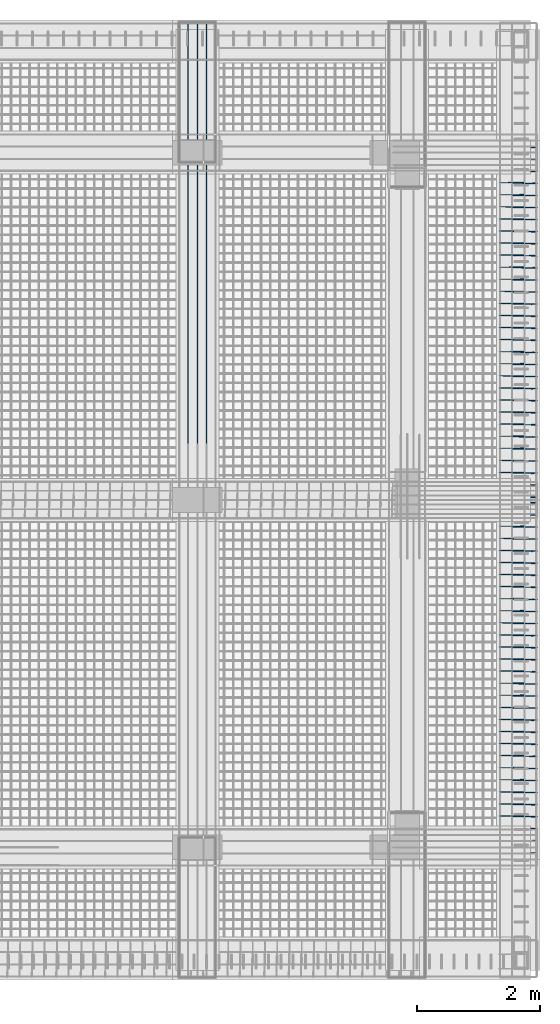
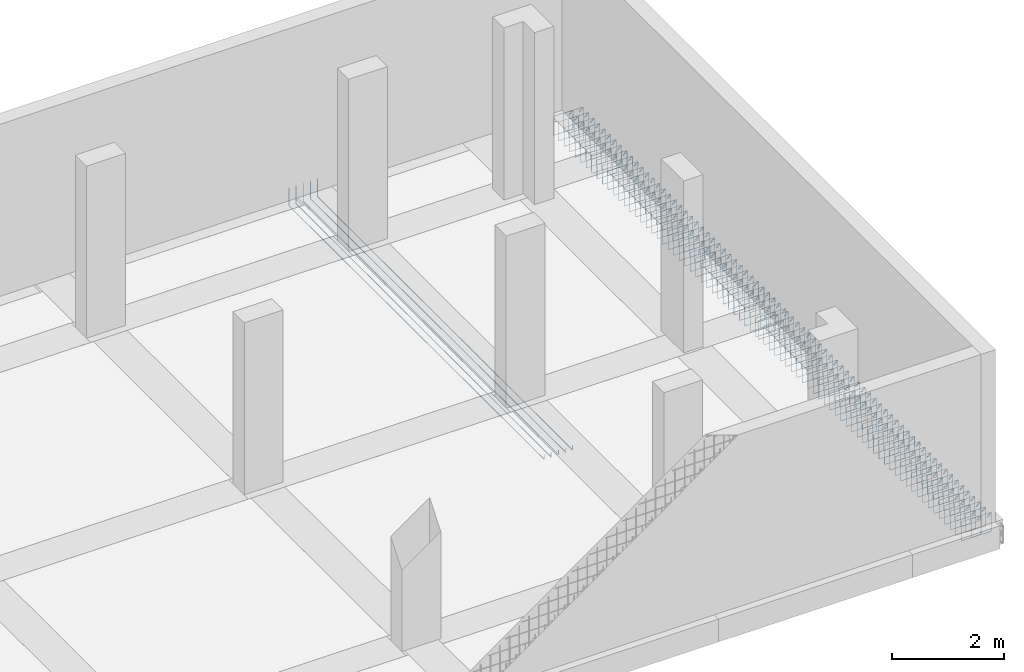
# One storey, part 8 of 9: 2 reinforcing bars.
"""IFC4 building model written with IfcOpenShell, lengths in metres."""

from ifc_helpers import new_model, entity, si_unit, origin_with_axes, place, context, project, spatial, source, transform, mapped, element, save


model = new_model("IFC4")

# Units and contexts
model_context = context("Model", 3, precision=1e-05, world=origin_with_axes())
ifc_project = project(units=[si_unit("LENGTHUNIT", "METRE"), si_unit("AREAUNIT", "SQUARE_METRE"), si_unit("VOLUMEUNIT", "CUBIC_METRE"), si_unit("MASSUNIT", "GRAM", prefix="KILO"), si_unit("TIMEUNIT", "SECOND"), si_unit("PLANEANGLEUNIT", "RADIAN"), si_unit("SOLIDANGLEUNIT", "STERADIAN"), si_unit("THERMODYNAMICTEMPERATUREUNIT", "DEGREE_CELSIUS")], contexts=[model_context])

# Site, building, storey
placement_1 = place(None, origin_with_axes())
site = spatial("IfcSite", under=ifc_project, at=placement_1, Name="Italia", CompositionType="ELEMENT")
building = spatial("IfcBuilding", under=site, at=placement_1, Name="Palazzina", CompositionType="ELEMENT")
storey = spatial("IfcBuildingStorey", under=building, at=placement_1, Name="Storey 0", CompositionType="ELEMENT", Elevation=0.0)

# Reinforcing bars
shared_shape_1 = source(origin_with_axes(), model_context, "Body", "AdvancedSweptSolid", [
    entity("IfcSweptDiskSolid", entity("IfcIndexedPolyCurve", entity("IfcCartesianPointList3D", [[15.242, 4.458, -0.344], [15.242, 4.458, -0.434], [15.242, 4.45876, -0.437827], [15.242, 4.46093, -0.441071], [15.242, 4.46417, -0.443239], [15.242, 4.468, -0.444], [15.242, 4.88382, -0.444], [15.242, 13.56, -0.444], [15.242, 13.5638, -0.443239], [15.242, 13.5671, -0.441071], [15.242, 13.5692, -0.437827], [15.242, 13.57, -0.434], [15.242, 13.57, -0.056]]), [entity("IfcLineIndex", [1, 2]), entity("IfcLineIndex", [2, 3]), entity("IfcLineIndex", [3, 4]), entity("IfcLineIndex", [4, 5]), entity("IfcLineIndex", [5, 6]), entity("IfcLineIndex", [6, 7]), entity("IfcLineIndex", [7, 8]), entity("IfcLineIndex", [8, 9]), entity("IfcLineIndex", [9, 10]), entity("IfcLineIndex", [10, 11]), entity("IfcLineIndex", [11, 12]), entity("IfcLineIndex", [12, 13])], False), 0.008),
])
placement_2 = place(placement_1, origin_with_axes())
reinforcing_bar_1_placement = place(placement_2, origin_with_axes())
element("IfcReinforcingBar", 1, at=reinforcing_bar_1_placement, inside=storey, BarLength=9.59121, CrossSectionArea=0.00020106, NominalDiameter=0.016, context=model_context, shape_type="MappedRepresentation", body=[
    mapped(shared_shape_1, transform((0.0, 0.0, 0.0), x_axis=(1.0, 0.0, 0.0), y_axis=(0.0, 1.0, 0.0), z_axis=(0.0, 0.0, 1.0), scale=1.0)),
    mapped(shared_shape_1, transform((-0.584, 0.0, 0.0), x_axis=(1.0, 0.0, 0.0), y_axis=(0.0, 1.0, 0.0), z_axis=(0.0, 0.0, 1.0), scale=1.0)),
    mapped(shared_shape_1, transform((-0.141999, 0.0, 0.0), x_axis=(1.0, 0.0, 0.0), y_axis=(0.0, 1.0, 0.0), z_axis=(0.0, 0.0, 1.0), scale=1.0)),
    mapped(shared_shape_1, transform((-0.292, 0.0, 0.0), x_axis=(1.0, 0.0, 0.0), y_axis=(0.0, 1.0, 0.0), z_axis=(0.0, 0.0, 1.0), scale=1.0)),
    mapped(shared_shape_1, transform((-0.441999, 0.0, 0.0), x_axis=(1.0, 0.0, 0.0), y_axis=(0.0, 1.0, 0.0), z_axis=(0.0, 0.0, 1.0), scale=1.0)),
])
shared_shape_2 = source(origin_with_axes(), model_context, "Body", "AdvancedSweptSolid", [
    entity("IfcSweptDiskSolid", entity("IfcIndexedPolyCurve", entity("IfcCartesianPointList3D", [[20.3843, -1.45, -0.138211], [20.4521, -1.45058, -0.0704289], [20.455, -1.45063, -0.0633579], [20.455, -1.45068, -0.055], [20.4542, -1.4507, -0.0511732], [20.4521, -1.45073, -0.0479289], [20.4488, -1.45075, -0.0457612], [20.445, -1.45077, -0.045], [20.0583, -1.45312, -0.045], [20.0545, -1.45314, -0.0457612], [20.0513, -1.45317, -0.0479289], [20.0491, -1.45319, -0.0511732], [20.0483, -1.45321, -0.055], [20.0483, -1.45558, -0.445], [20.0491, -1.4556, -0.448827], [20.0513, -1.45563, -0.452071], [20.0545, -1.45565, -0.454239], [20.0583, -1.45568, -0.455], [20.445, -1.45802, -0.455], [20.4488, -1.45805, -0.454239], [20.4521, -1.45807, -0.452071], [20.4542, -1.45809, -0.448827], [20.455, -1.45812, -0.445], [20.455, -1.46048, -0.055], [20.4542, -1.46051, -0.0511732], [20.4521, -1.46053, -0.0479289], [20.4488, -1.46055, -0.0457612], [20.445, -1.46058, -0.045], [20.4366, -1.46063, -0.045], [20.4296, -1.46067, -0.0479289], [20.3618, -1.46126, -0.115711]]), [entity("IfcLineIndex", [1, 2]), entity("IfcLineIndex", [2, 3]), entity("IfcLineIndex", [3, 4]), entity("IfcLineIndex", [4, 5]), entity("IfcLineIndex", [5, 6]), entity("IfcLineIndex", [6, 7]), entity("IfcLineIndex", [7, 8]), entity("IfcLineIndex", [8, 9]), entity("IfcLineIndex", [9, 10]), entity("IfcLineIndex", [10, 11]), entity("IfcLineIndex", [11, 12]), entity("IfcLineIndex", [12, 13]), entity("IfcLineIndex", [13, 14]), entity("IfcLineIndex", [14, 15]), entity("IfcLineIndex", [15, 16]), entity("IfcLineIndex", [16, 17]), entity("IfcLineIndex", [17, 18]), entity("IfcLineIndex", [18, 19]), entity("IfcLineIndex", [19, 20]), entity("IfcLineIndex", [20, 21]), entity("IfcLineIndex", [21, 22]), entity("IfcLineIndex", [22, 23]), entity("IfcLineIndex", [23, 24]), entity("IfcLineIndex", [24, 25]), entity("IfcLineIndex", [25, 26]), entity("IfcLineIndex", [26, 27]), entity("IfcLineIndex", [27, 28]), entity("IfcLineIndex", [28, 29]), entity("IfcLineIndex", [29, 30]), entity("IfcLineIndex", [30, 31])], False), 0.005),
])
reinforcing_bar_2_placement = place(placement_2, origin_with_axes())
element("IfcReinforcingBar", 2, at=reinforcing_bar_2_placement, inside=storey, BarLength=1.85515, CrossSectionArea=7.854e-05, NominalDiameter=0.01, context=model_context, shape_type="MappedRepresentation", body=[
    mapped(shared_shape_2, transform((-7.82013e-05, 12.0251, 7.23749e-05), x_axis=(1.0, 5.45636e-05, 0.0), y_axis=(-5.45463e-05, 1.0, 5.6339e-05), z_axis=(0.0, -5.6339e-05, 1.0), scale=1.0)),
    mapped(shared_shape_2, transform((-7.82013e-05, 11.8294, 7.23749e-05), x_axis=(1.0, 5.45636e-05, 0.0), y_axis=(-5.45463e-05, 1.0, 5.6339e-05), z_axis=(0.0, -5.6339e-05, 1.0), scale=1.0)),
    mapped(shared_shape_2, transform((-7.82013e-05, 12.4164, 7.23749e-05), x_axis=(1.0, 5.45636e-05, 0.0), y_axis=(-5.45463e-05, 1.0, 5.6339e-05), z_axis=(0.0, -5.6339e-05, 1.0), scale=1.0)),
    mapped(shared_shape_2, transform((-7.82013e-05, 12.2208, 7.23749e-05), x_axis=(1.0, 5.45636e-05, 0.0), y_axis=(-5.45463e-05, 1.0, 5.6339e-05), z_axis=(0.0, -5.6339e-05, 1.0), scale=1.0)),
    mapped(shared_shape_2, transform((-7.82013e-05, 11.2424, 7.23749e-05), x_axis=(1.0, 5.45636e-05, 0.0), y_axis=(-5.45463e-05, 1.0, 5.6339e-05), z_axis=(0.0, -5.6339e-05, 1.0), scale=1.0)),
    mapped(shared_shape_2, transform((-7.82013e-05, 11.0467, 7.23749e-05), x_axis=(1.0, 5.45636e-05, 0.0), y_axis=(-5.45463e-05, 1.0, 5.6339e-05), z_axis=(0.0, -5.6339e-05, 1.0), scale=1.0)),
    mapped(shared_shape_2, transform((-7.82013e-05, 11.6337, 7.23749e-05), x_axis=(1.0, 5.45636e-05, 0.0), y_axis=(-5.45463e-05, 1.0, 5.6339e-05), z_axis=(0.0, -5.6339e-05, 1.0), scale=1.0)),
    mapped(shared_shape_2, transform((-7.82013e-05, 11.4381, 7.23749e-05), x_axis=(1.0, 5.45636e-05, 0.0), y_axis=(-5.45463e-05, 1.0, 5.6339e-05), z_axis=(0.0, -5.6339e-05, 1.0), scale=1.0)),
    mapped(shared_shape_2, transform((-7.82013e-05, 13.9819, 7.23749e-05), x_axis=(1.0, 5.45636e-05, 0.0), y_axis=(-5.45463e-05, 1.0, 5.6339e-05), z_axis=(0.0, -5.6339e-05, 1.0), scale=1.0)),
    mapped(shared_shape_2, transform((-7.82013e-05, 13.7862, 7.23749e-05), x_axis=(1.0, 5.45636e-05, 0.0), y_axis=(-5.45463e-05, 1.0, 5.6339e-05), z_axis=(0.0, -5.6339e-05, 1.0), scale=1.0)),
    mapped(shared_shape_2, transform((-7.82013e-05, 12.6121, 7.23749e-05), x_axis=(1.0, 5.45636e-05, 0.0), y_axis=(-5.45463e-05, 1.0, 5.6339e-05), z_axis=(0.0, -5.6339e-05, 1.0), scale=1.0)),
    mapped(shared_shape_2, transform((-7.82013e-05, 14.1775, 7.23749e-05), x_axis=(1.0, 5.45636e-05, 0.0), y_axis=(-5.45463e-05, 1.0, 5.6339e-05), z_axis=(0.0, -5.6339e-05, 1.0), scale=1.0)),
    mapped(shared_shape_2, transform((-7.82013e-05, 13.1992, 7.23749e-05), x_axis=(1.0, 5.45636e-05, 0.0), y_axis=(-5.45463e-05, 1.0, 5.6339e-05), z_axis=(0.0, -5.6339e-05, 1.0), scale=1.0)),
    mapped(shared_shape_2, transform((-7.82013e-05, 13.0035, 7.23749e-05), x_axis=(1.0, 5.45636e-05, 0.0), y_axis=(-5.45463e-05, 1.0, 5.6339e-05), z_axis=(0.0, -5.6339e-05, 1.0), scale=1.0)),
    mapped(shared_shape_2, transform((-7.82013e-05, 13.5905, 7.23749e-05), x_axis=(1.0, 5.45636e-05, 0.0), y_axis=(-5.45463e-05, 1.0, 5.6339e-05), z_axis=(0.0, -5.6339e-05, 1.0), scale=1.0)),
    mapped(shared_shape_2, transform((-7.82013e-05, 13.3948, 7.23749e-05), x_axis=(1.0, 5.45636e-05, 0.0), y_axis=(-5.45463e-05, 1.0, 5.6339e-05), z_axis=(0.0, -5.6339e-05, 1.0), scale=1.0)),
    mapped(shared_shape_2, transform((8.7738e-05, 8.5053, -7.44909e-05), x_axis=(1.0, -6.05728e-05, 0.0), y_axis=(6.05854e-05, 1.0, -5.88e-05), z_axis=(0.0, 5.88e-05, 1.0), scale=1.0)),
    mapped(shared_shape_2, transform((8.7738e-05, 8.30962, -7.44909e-05), x_axis=(1.0, -6.05728e-05, 0.0), y_axis=(6.05854e-05, 1.0, -5.88e-05), z_axis=(0.0, 5.88e-05, 1.0), scale=1.0)),
    mapped(shared_shape_2, transform((-7.82013e-05, 12.8078, 7.23749e-05), x_axis=(1.0, 5.45636e-05, 0.0), y_axis=(-5.45463e-05, 1.0, 5.6339e-05), z_axis=(0.0, -5.6339e-05, 1.0), scale=1.0)),
    mapped(shared_shape_2, transform((-7.82013e-05, 14.3732, 7.23749e-05), x_axis=(1.0, 5.45636e-05, 0.0), y_axis=(-5.45463e-05, 1.0, 5.6339e-05), z_axis=(0.0, -5.6339e-05, 1.0), scale=1.0)),
    mapped(shared_shape_2, transform((8.7738e-05, 7.72259, -7.44909e-05), x_axis=(1.0, -6.05728e-05, 0.0), y_axis=(6.05854e-05, 1.0, -5.88e-05), z_axis=(0.0, 5.88e-05, 1.0), scale=1.0)),
    mapped(shared_shape_2, transform((8.7738e-05, 7.52692, -7.44909e-05), x_axis=(1.0, -6.05728e-05, 0.0), y_axis=(6.05854e-05, 1.0, -5.88e-05), z_axis=(0.0, 5.88e-05, 1.0), scale=1.0)),
    mapped(shared_shape_2, transform((8.7738e-05, 8.11395, -7.44909e-05), x_axis=(1.0, -6.05728e-05, 0.0), y_axis=(6.05854e-05, 1.0, -5.88e-05), z_axis=(0.0, 5.88e-05, 1.0), scale=1.0)),
    mapped(shared_shape_2, transform((8.7738e-05, 7.91827, -7.44909e-05), x_axis=(1.0, -6.05728e-05, 0.0), y_axis=(6.05854e-05, 1.0, -5.88e-05), z_axis=(0.0, 5.88e-05, 1.0), scale=1.0)),
    mapped(shared_shape_2, transform((8.7738e-05, 8.70097, -7.44909e-05), x_axis=(1.0, -6.05728e-05, 0.0), y_axis=(6.05854e-05, 1.0, -5.88e-05), z_axis=(0.0, 5.88e-05, 1.0), scale=1.0)),
    mapped(shared_shape_2, transform((-7.82013e-05, 10.264, 7.23749e-05), x_axis=(1.0, 5.45636e-05, 0.0), y_axis=(-5.45463e-05, 1.0, 5.6339e-05), z_axis=(0.0, -5.6339e-05, 1.0), scale=1.0)),
    mapped(shared_shape_2, transform((8.7738e-05, 7.33124, -7.44909e-05), x_axis=(1.0, -6.05728e-05, 0.0), y_axis=(6.05854e-05, 1.0, -5.88e-05), z_axis=(0.0, 5.88e-05, 1.0), scale=1.0)),
    mapped(shared_shape_2, transform((-7.82013e-05, 14.5689, 7.23749e-05), x_axis=(1.0, 5.45636e-05, 0.0), y_axis=(-5.45463e-05, 1.0, 5.6339e-05), z_axis=(0.0, -5.6339e-05, 1.0), scale=1.0)),
    mapped(shared_shape_2, transform((-7.82013e-05, 9.67699, 7.23749e-05), x_axis=(1.0, 5.45636e-05, 0.0), y_axis=(-5.45463e-05, 1.0, 5.6339e-05), z_axis=(0.0, -5.6339e-05, 1.0), scale=1.0)),
    mapped(shared_shape_2, transform((-7.82013e-05, 9.48131, 7.23749e-05), x_axis=(1.0, 5.45636e-05, 0.0), y_axis=(-5.45463e-05, 1.0, 5.6339e-05), z_axis=(0.0, -5.6339e-05, 1.0), scale=1.0)),
    mapped(shared_shape_2, transform((-7.82013e-05, 10.0683, 7.23749e-05), x_axis=(1.0, 5.45636e-05, 0.0), y_axis=(-5.45463e-05, 1.0, 5.6339e-05), z_axis=(0.0, -5.6339e-05, 1.0), scale=1.0)),
    mapped(shared_shape_2, transform((-7.82013e-05, 9.87266, 7.23749e-05), x_axis=(1.0, 5.45636e-05, 0.0), y_axis=(-5.45463e-05, 1.0, 5.6339e-05), z_axis=(0.0, -5.6339e-05, 1.0), scale=1.0)),
    mapped(shared_shape_2, transform((8.7738e-05, 8.89665, -7.44909e-05), x_axis=(1.0, -6.05728e-05, 0.0), y_axis=(6.05854e-05, 1.0, -5.88e-05), z_axis=(0.0, 5.88e-05, 1.0), scale=1.0)),
    mapped(shared_shape_2, transform((-7.82013e-05, 10.4597, 7.23749e-05), x_axis=(1.0, 5.45636e-05, 0.0), y_axis=(-5.45463e-05, 1.0, 5.6339e-05), z_axis=(0.0, -5.6339e-05, 1.0), scale=1.0)),
    mapped(shared_shape_2, transform((8.7738e-05, 9.288, -7.44909e-05), x_axis=(1.0, -6.05728e-05, 0.0), y_axis=(6.05854e-05, 1.0, -5.88e-05), z_axis=(0.0, 5.88e-05, 1.0), scale=1.0)),
    mapped(shared_shape_2, transform((8.7738e-05, 9.09232, -7.44909e-05), x_axis=(1.0, -6.05728e-05, 0.0), y_axis=(6.05854e-05, 1.0, -5.88e-05), z_axis=(0.0, 5.88e-05, 1.0), scale=1.0)),
    mapped(shared_shape_2, transform((-0.203411, 11.6437, 0.000358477), x_axis=(1.0, 5.48059e-05, -1.35303e-05), y_axis=(-5.47966e-05, 1.0, 5.64521e-05), z_axis=(1.35333e-05, -5.64514e-05, 1.0), scale=1.0)),
    mapped(shared_shape_2, transform((-0.203411, 11.4481, 0.000358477), x_axis=(1.0, 5.48059e-05, -1.35303e-05), y_axis=(-5.47966e-05, 1.0, 5.64521e-05), z_axis=(1.35333e-05, -5.64514e-05, 1.0), scale=1.0)),
    mapped(shared_shape_2, transform((-0.203411, 12.0351, 0.000358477), x_axis=(1.0, 5.48059e-05, -1.35303e-05), y_axis=(-5.47966e-05, 1.0, 5.64521e-05), z_axis=(1.35333e-05, -5.64514e-05, 1.0), scale=1.0)),
    mapped(shared_shape_2, transform((-0.203411, 11.8394, 0.000358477), x_axis=(1.0, 5.48059e-05, -1.35303e-05), y_axis=(-5.47966e-05, 1.0, 5.64521e-05), z_axis=(1.35333e-05, -5.64514e-05, 1.0), scale=1.0)),
    mapped(shared_shape_2, transform((-7.82013e-05, 10.851, 7.23749e-05), x_axis=(1.0, 5.45636e-05, 0.0), y_axis=(-5.45463e-05, 1.0, 5.6339e-05), z_axis=(0.0, -5.6339e-05, 1.0), scale=1.0)),
    mapped(shared_shape_2, transform((-7.82013e-05, 10.6554, 7.23749e-05), x_axis=(1.0, 5.45636e-05, 0.0), y_axis=(-5.45463e-05, 1.0, 5.6339e-05), z_axis=(0.0, -5.6339e-05, 1.0), scale=1.0)),
    mapped(shared_shape_2, transform((-0.203411, 11.2524, 0.000358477), x_axis=(1.0, 5.48059e-05, -1.35303e-05), y_axis=(-5.47966e-05, 1.0, 5.64521e-05), z_axis=(1.35333e-05, -5.64514e-05, 1.0), scale=1.0)),
    mapped(shared_shape_2, transform((-0.203411, 11.0567, 0.000358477), x_axis=(1.0, 5.48059e-05, -1.35303e-05), y_axis=(-5.47966e-05, 1.0, 5.64521e-05), z_axis=(1.35333e-05, -5.64514e-05, 1.0), scale=1.0)),
    mapped(shared_shape_2, transform((-0.203411, 13.6005, 0.000358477), x_axis=(1.0, 5.48059e-05, -1.35303e-05), y_axis=(-5.47966e-05, 1.0, 5.64521e-05), z_axis=(1.35333e-05, -5.64514e-05, 1.0), scale=1.0)),
    mapped(shared_shape_2, transform((-0.203411, 13.4048, 0.000358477), x_axis=(1.0, 5.48059e-05, -1.35303e-05), y_axis=(-5.47966e-05, 1.0, 5.64521e-05), z_axis=(1.35333e-05, -5.64514e-05, 1.0), scale=1.0)),
    mapped(shared_shape_2, transform((-0.203411, 12.2308, 0.000358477), x_axis=(1.0, 5.48059e-05, -1.35303e-05), y_axis=(-5.47966e-05, 1.0, 5.64521e-05), z_axis=(1.35333e-05, -5.64514e-05, 1.0), scale=1.0)),
    mapped(shared_shape_2, transform((-0.203411, 13.7962, 0.000358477), x_axis=(1.0, 5.48059e-05, -1.35303e-05), y_axis=(-5.47966e-05, 1.0, 5.64521e-05), z_axis=(1.35333e-05, -5.64514e-05, 1.0), scale=1.0)),
    mapped(shared_shape_2, transform((-0.203411, 12.8178, 0.000358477), x_axis=(1.0, 5.48059e-05, -1.35303e-05), y_axis=(-5.47966e-05, 1.0, 5.64521e-05), z_axis=(1.35333e-05, -5.64514e-05, 1.0), scale=1.0)),
    mapped(shared_shape_2, transform((-0.203411, 12.6221, 0.000358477), x_axis=(1.0, 5.48059e-05, -1.35303e-05), y_axis=(-5.47966e-05, 1.0, 5.64521e-05), z_axis=(1.35333e-05, -5.64514e-05, 1.0), scale=1.0)),
    mapped(shared_shape_2, transform((-0.203411, 13.2091, 0.000358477), x_axis=(1.0, 5.48059e-05, -1.35303e-05), y_axis=(-5.47966e-05, 1.0, 5.64521e-05), z_axis=(1.35333e-05, -5.64514e-05, 1.0), scale=1.0)),
    mapped(shared_shape_2, transform((-0.203411, 13.0135, 0.000358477), x_axis=(1.0, 5.48059e-05, -1.35303e-05), y_axis=(-5.47966e-05, 1.0, 5.64521e-05), z_axis=(1.35333e-05, -5.64514e-05, 1.0), scale=1.0)),
    mapped(shared_shape_2, transform((-0.203243, 8.12394, 0.000211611), x_axis=(1.0, -6.03452e-05, -1.45137e-05), y_axis=(6.03619e-05, 1.0, -5.86897e-05), z_axis=(1.45173e-05, 5.86888e-05, 1.0), scale=1.0)),
    mapped(shared_shape_2, transform((-0.203243, 7.92827, 0.000211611), x_axis=(1.0, -6.03452e-05, -1.45137e-05), y_axis=(6.03619e-05, 1.0, -5.86897e-05), z_axis=(1.45173e-05, 5.86888e-05, 1.0), scale=1.0)),
    mapped(shared_shape_2, transform((-0.203411, 12.4264, 0.000358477), x_axis=(1.0, 5.48059e-05, -1.35303e-05), y_axis=(-5.47966e-05, 1.0, 5.64521e-05), z_axis=(1.35333e-05, -5.64514e-05, 1.0), scale=1.0)),
    mapped(shared_shape_2, transform((-0.203411, 13.9918, 0.000358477), x_axis=(1.0, 5.48059e-05, -1.35303e-05), y_axis=(-5.47966e-05, 1.0, 5.64521e-05), z_axis=(1.35333e-05, -5.64514e-05, 1.0), scale=1.0)),
    mapped(shared_shape_2, transform((-0.203243, 7.34124, 0.000211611), x_axis=(1.0, -6.03452e-05, -1.45137e-05), y_axis=(6.03619e-05, 1.0, -5.86897e-05), z_axis=(1.45173e-05, 5.86888e-05, 1.0), scale=1.0)),
    mapped(shared_shape_2, transform((-0.203411, 14.5789, 0.000358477), x_axis=(1.0, 5.48059e-05, -1.35303e-05), y_axis=(-5.47966e-05, 1.0, 5.64521e-05), z_axis=(1.35333e-05, -5.64514e-05, 1.0), scale=1.0)),
    mapped(shared_shape_2, transform((-0.203243, 7.73259, 0.000211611), x_axis=(1.0, -6.03452e-05, -1.45137e-05), y_axis=(6.03619e-05, 1.0, -5.86897e-05), z_axis=(1.45173e-05, 5.86888e-05, 1.0), scale=1.0)),
    mapped(shared_shape_2, transform((-0.203243, 7.53691, 0.000211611), x_axis=(1.0, -6.03452e-05, -1.45137e-05), y_axis=(6.03619e-05, 1.0, -5.86897e-05), z_axis=(1.45173e-05, 5.86888e-05, 1.0), scale=1.0)),
    mapped(shared_shape_2, transform((-0.203243, 8.31962, 0.000211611), x_axis=(1.0, -6.03452e-05, -1.45137e-05), y_axis=(6.03619e-05, 1.0, -5.86897e-05), z_axis=(1.45173e-05, 5.86888e-05, 1.0), scale=1.0)),
    mapped(shared_shape_2, transform((-0.203411, 9.88266, 0.000358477), x_axis=(1.0, 5.48059e-05, -1.35303e-05), y_axis=(-5.47966e-05, 1.0, 5.64521e-05), z_axis=(1.35333e-05, -5.64514e-05, 1.0), scale=1.0)),
    mapped(shared_shape_2, transform((-0.203411, 14.3832, 0.000358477), x_axis=(1.0, 5.48059e-05, -1.35303e-05), y_axis=(-5.47966e-05, 1.0, 5.64521e-05), z_axis=(1.35333e-05, -5.64514e-05, 1.0), scale=1.0)),
    mapped(shared_shape_2, transform((-0.203411, 14.1875, 0.000358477), x_axis=(1.0, 5.48059e-05, -1.35303e-05), y_axis=(-5.47966e-05, 1.0, 5.64521e-05), z_axis=(1.35333e-05, -5.64514e-05, 1.0), scale=1.0)),
    mapped(shared_shape_2, transform((-0.203243, 9.29799, 0.000211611), x_axis=(1.0, -6.03452e-05, -1.45137e-05), y_axis=(6.03619e-05, 1.0, -5.86897e-05), z_axis=(1.45173e-05, 5.86888e-05, 1.0), scale=1.0)),
    mapped(shared_shape_2, transform((-0.203243, 9.10232, 0.000211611), x_axis=(1.0, -6.03452e-05, -1.45137e-05), y_axis=(6.03619e-05, 1.0, -5.86897e-05), z_axis=(1.45173e-05, 5.86888e-05, 1.0), scale=1.0)),
    mapped(shared_shape_2, transform((-0.203411, 9.68698, 0.000358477), x_axis=(1.0, 5.48059e-05, -1.35303e-05), y_axis=(-5.47966e-05, 1.0, 5.64521e-05), z_axis=(1.35333e-05, -5.64514e-05, 1.0), scale=1.0)),
    mapped(shared_shape_2, transform((-0.203411, 9.49131, 0.000358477), x_axis=(1.0, 5.48059e-05, -1.35303e-05), y_axis=(-5.47966e-05, 1.0, 5.64521e-05), z_axis=(1.35333e-05, -5.64514e-05, 1.0), scale=1.0)),
    mapped(shared_shape_2, transform((-0.203243, 8.51529, 0.000211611), x_axis=(1.0, -6.03452e-05, -1.45137e-05), y_axis=(6.03619e-05, 1.0, -5.86897e-05), z_axis=(1.45173e-05, 5.86888e-05, 1.0), scale=1.0)),
    mapped(shared_shape_2, transform((-0.203411, 10.0783, 0.000358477), x_axis=(1.0, 5.48059e-05, -1.35303e-05), y_axis=(-5.47966e-05, 1.0, 5.64521e-05), z_axis=(1.35333e-05, -5.64514e-05, 1.0), scale=1.0)),
    mapped(shared_shape_2, transform((-0.203243, 8.90664, 0.000211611), x_axis=(1.0, -6.03452e-05, -1.45137e-05), y_axis=(6.03619e-05, 1.0, -5.86897e-05), z_axis=(1.45173e-05, 5.86888e-05, 1.0), scale=1.0)),
    mapped(shared_shape_2, transform((-0.203243, 8.71097, 0.000211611), x_axis=(1.0, -6.03452e-05, -1.45137e-05), y_axis=(6.03619e-05, 1.0, -5.86897e-05), z_axis=(1.45173e-05, 5.86888e-05, 1.0), scale=1.0)),
    mapped(shared_shape_2, transform((0.0, 3.91357, 0.0), x_axis=(1.0, 0.0, 0.0), y_axis=(0.0, 1.0, 0.0), z_axis=(0.0, 0.0, 1.0), scale=1.0)),
    mapped(shared_shape_2, transform((0.0, 3.7179, 0.0), x_axis=(1.0, 0.0, 0.0), y_axis=(0.0, 1.0, 0.0), z_axis=(0.0, 0.0, 1.0), scale=1.0)),
    mapped(shared_shape_2, transform((-7.82013e-05, 4.30374, 7.23749e-05), x_axis=(1.0, 5.45636e-05, 0.0), y_axis=(-5.45463e-05, 1.0, 5.6339e-05), z_axis=(0.0, -5.6339e-05, 1.0), scale=1.0)),
    mapped(shared_shape_2, transform((-7.82013e-05, 4.10807, 7.23749e-05), x_axis=(1.0, 5.45636e-05, 0.0), y_axis=(-5.45463e-05, 1.0, 5.6339e-05), z_axis=(0.0, -5.6339e-05, 1.0), scale=1.0)),
    mapped(shared_shape_2, transform((-0.203411, 10.4697, 0.000358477), x_axis=(1.0, 5.48059e-05, -1.35303e-05), y_axis=(-5.47966e-05, 1.0, 5.64521e-05), z_axis=(1.35333e-05, -5.64514e-05, 1.0), scale=1.0)),
    mapped(shared_shape_2, transform((-0.203411, 10.274, 0.000358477), x_axis=(1.0, 5.48059e-05, -1.35303e-05), y_axis=(-5.47966e-05, 1.0, 5.64521e-05), z_axis=(1.35333e-05, -5.64514e-05, 1.0), scale=1.0)),
    mapped(shared_shape_2, transform((-0.203411, 10.861, 0.000358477), x_axis=(1.0, 5.48059e-05, -1.35303e-05), y_axis=(-5.47966e-05, 1.0, 5.64521e-05), z_axis=(1.35333e-05, -5.64514e-05, 1.0), scale=1.0)),
    mapped(shared_shape_2, transform((-0.203411, 10.6654, 0.000358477), x_axis=(1.0, 5.48059e-05, -1.35303e-05), y_axis=(-5.47966e-05, 1.0, 5.64521e-05), z_axis=(1.35333e-05, -5.64514e-05, 1.0), scale=1.0)),
    mapped(shared_shape_2, transform((8.7738e-05, 5.87151, -7.44909e-05), x_axis=(1.0, -6.05728e-05, 0.0), y_axis=(6.05854e-05, 1.0, -5.88e-05), z_axis=(0.0, 5.88e-05, 1.0), scale=1.0)),
    mapped(shared_shape_2, transform((8.7738e-05, 5.67584, -7.44909e-05), x_axis=(1.0, -6.05728e-05, 0.0), y_axis=(6.05854e-05, 1.0, -5.88e-05), z_axis=(0.0, 5.88e-05, 1.0), scale=1.0)),
    mapped(shared_shape_2, transform((-7.82013e-05, 4.49942, 7.23749e-05), x_axis=(1.0, 5.45636e-05, 0.0), y_axis=(-5.45463e-05, 1.0, 5.6339e-05), z_axis=(0.0, -5.6339e-05, 1.0), scale=1.0)),
    mapped(shared_shape_2, transform((8.7738e-05, 6.06719, -7.44909e-05), x_axis=(1.0, -6.05728e-05, 0.0), y_axis=(6.05854e-05, 1.0, -5.88e-05), z_axis=(0.0, 5.88e-05, 1.0), scale=1.0)),
    mapped(shared_shape_2, transform((-7.82013e-05, 5.08645, 7.23749e-05), x_axis=(1.0, 5.45636e-05, 0.0), y_axis=(-5.45463e-05, 1.0, 5.6339e-05), z_axis=(0.0, -5.6339e-05, 1.0), scale=1.0)),
    mapped(shared_shape_2, transform((-7.82013e-05, 4.89077, 7.23749e-05), x_axis=(1.0, 5.45636e-05, 0.0), y_axis=(-5.45463e-05, 1.0, 5.6339e-05), z_axis=(0.0, -5.6339e-05, 1.0), scale=1.0)),
    mapped(shared_shape_2, transform((8.7738e-05, 5.48016, -7.44909e-05), x_axis=(1.0, -6.05728e-05, 0.0), y_axis=(6.05854e-05, 1.0, -5.88e-05), z_axis=(0.0, 5.88e-05, 1.0), scale=1.0)),
    mapped(shared_shape_2, transform((-7.82013e-05, 5.28212, 7.23749e-05), x_axis=(1.0, 5.45636e-05, 0.0), y_axis=(-5.45463e-05, 1.0, 5.6339e-05), z_axis=(0.0, -5.6339e-05, 1.0), scale=1.0)),
    mapped(shared_shape_2, transform((0.0, 0.391351, 0.0), x_axis=(1.0, 0.0, 0.0), y_axis=(0.0, 1.0, 0.0), z_axis=(0.0, 0.0, 1.0), scale=1.0)),
    mapped(shared_shape_2, transform((0.0, 0.195676, 0.0), x_axis=(1.0, 0.0, 0.0), y_axis=(0.0, 1.0, 0.0), z_axis=(0.0, 0.0, 1.0), scale=1.0)),
    mapped(shared_shape_2, transform((-7.82013e-05, 4.6951, 7.23749e-05), x_axis=(1.0, 5.45636e-05, 0.0), y_axis=(-5.45463e-05, 1.0, 5.6339e-05), z_axis=(0.0, -5.6339e-05, 1.0), scale=1.0)),
    mapped(shared_shape_2, transform((8.7738e-05, 6.26287, -7.44909e-05), x_axis=(1.0, -6.05728e-05, 0.0), y_axis=(6.05854e-05, 1.0, -5.88e-05), z_axis=(0.0, 5.88e-05, 1.0), scale=1.0)),
    mapped(shared_shape_2, transform((8.7738e-05, 7.04557, -7.44909e-05), x_axis=(1.0, -6.05728e-05, 0.0), y_axis=(6.05854e-05, 1.0, -5.88e-05), z_axis=(0.0, 5.88e-05, 1.0), scale=1.0)),
    mapped(shared_shape_2, transform((8.7738e-05, 6.84989, -7.44909e-05), x_axis=(1.0, -6.05728e-05, 0.0), y_axis=(6.05854e-05, 1.0, -5.88e-05), z_axis=(0.0, 5.88e-05, 1.0), scale=1.0)),
    mapped(shared_shape_2, transform((0.0, 0.0, 0.0), x_axis=(1.0, 0.0, 0.0), y_axis=(0.0, 1.0, 0.0), z_axis=(0.0, 0.0, 1.0), scale=1.0)),
    mapped(shared_shape_2, transform((8.7738e-05, 7.24125, -7.44909e-05), x_axis=(1.0, -6.05728e-05, 0.0), y_axis=(6.05854e-05, 1.0, -5.88e-05), z_axis=(0.0, 5.88e-05, 1.0), scale=1.0)),
    mapped(shared_shape_2, transform((2.28882e-05, 0.587322, -1.72704e-05), x_axis=(1.0, -1.43935e-05, 0.0), y_axis=(1.43937e-05, 1.0, -1.43928e-05), z_axis=(0.0, 1.43928e-05, 1.0), scale=1.0)),
    mapped(shared_shape_2, transform((0.0, 2.15237, 0.0), x_axis=(1.0, 0.0, 0.0), y_axis=(0.0, 1.0, 0.0), z_axis=(0.0, 0.0, 1.0), scale=1.0)),
    mapped(shared_shape_2, transform((8.7738e-05, 6.65422, -7.44909e-05), x_axis=(1.0, -6.05728e-05, 0.0), y_axis=(6.05854e-05, 1.0, -5.88e-05), z_axis=(0.0, 5.88e-05, 1.0), scale=1.0)),
    mapped(shared_shape_2, transform((8.7738e-05, 6.45854, -7.44909e-05), x_axis=(1.0, -6.05728e-05, 0.0), y_axis=(6.05854e-05, 1.0, -5.88e-05), z_axis=(0.0, 5.88e-05, 1.0), scale=1.0)),
    mapped(shared_shape_2, transform((0.0, 1.56541, 0.0), x_axis=(1.0, 0.0, 0.0), y_axis=(0.0, 1.0, 0.0), z_axis=(0.0, 0.0, 1.0), scale=1.0)),
    mapped(shared_shape_2, transform((0.0, 1.36973, 0.0), x_axis=(1.0, 0.0, 0.0), y_axis=(0.0, 1.0, 0.0), z_axis=(0.0, 0.0, 1.0), scale=1.0)),
    mapped(shared_shape_2, transform((0.0, 1.95676, 0.0), x_axis=(1.0, 0.0, 0.0), y_axis=(0.0, 1.0, 0.0), z_axis=(0.0, 0.0, 1.0), scale=1.0)),
    mapped(shared_shape_2, transform((0.0, 1.76108, 0.0), x_axis=(1.0, 0.0, 0.0), y_axis=(0.0, 1.0, 0.0), z_axis=(0.0, 0.0, 1.0), scale=1.0)),
    mapped(shared_shape_2, transform((2.28882e-05, 0.782998, -1.72704e-05), x_axis=(1.0, -1.43935e-05, 0.0), y_axis=(1.43937e-05, 1.0, -1.43928e-05), z_axis=(0.0, 1.43928e-05, 1.0), scale=1.0)),
    mapped(shared_shape_2, transform((8.7738e-05, 2.34935, -7.44909e-05), x_axis=(1.0, -6.05728e-05, 0.0), y_axis=(6.05854e-05, 1.0, -5.88e-05), z_axis=(0.0, 5.88e-05, 1.0), scale=1.0)),
    mapped(shared_shape_2, transform((0.0, 1.17405, 0.0), x_axis=(1.0, 0.0, 0.0), y_axis=(0.0, 1.0, 0.0), z_axis=(0.0, 0.0, 1.0), scale=1.0)),
    mapped(shared_shape_2, transform((2.28882e-05, 0.978674, -1.72704e-05), x_axis=(1.0, -1.43935e-05, 0.0), y_axis=(1.43937e-05, 1.0, -1.43928e-05), z_axis=(0.0, 1.43928e-05, 1.0), scale=1.0)),
    mapped(shared_shape_2, transform((0.0, 3.52222, 0.0), x_axis=(1.0, 0.0, 0.0), y_axis=(0.0, 1.0, 0.0), z_axis=(0.0, 0.0, 1.0), scale=1.0)),
    mapped(shared_shape_2, transform((-8.7738e-05, 3.32524, 7.5236e-05), x_axis=(1.0, 6.05626e-05, 0.0), y_axis=(-6.05554e-05, 1.0, 5.88113e-05), z_axis=(0.0, -5.88114e-05, 1.0), scale=1.0)),
    mapped(shared_shape_2, transform((-0.203327, 3.92357, 0.000285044), x_axis=(1.0, 0.0, -1.40369e-05), y_axis=(0.0, 1.0, 0.0), z_axis=(1.40369e-05, 0.0, 1.0), scale=1.0)),
    mapped(shared_shape_2, transform((-0.203327, 3.72789, 0.000285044), x_axis=(1.0, 0.0, -1.40369e-05), y_axis=(0.0, 1.0, 0.0), z_axis=(1.40369e-05, 0.0, 1.0), scale=1.0)),
    mapped(shared_shape_2, transform((8.7738e-05, 2.7407, -7.44909e-05), x_axis=(1.0, -6.05728e-05, 0.0), y_axis=(6.05854e-05, 1.0, -5.88e-05), z_axis=(0.0, 5.88e-05, 1.0), scale=1.0)),
    mapped(shared_shape_2, transform((-8.7738e-05, 2.54254, 7.5236e-05), x_axis=(1.0, 6.05626e-05, 0.0), y_axis=(-6.05554e-05, 1.0, 5.88113e-05), z_axis=(0.0, -5.88114e-05, 1.0), scale=1.0)),
    mapped(shared_shape_2, transform((8.7738e-05, 3.13205, -7.44909e-05), x_axis=(1.0, -6.05728e-05, 0.0), y_axis=(6.05854e-05, 1.0, -5.88e-05), z_axis=(0.0, 5.88e-05, 1.0), scale=1.0)),
    mapped(shared_shape_2, transform((-8.7738e-05, 2.93389, 7.5236e-05), x_axis=(1.0, 6.05626e-05, 0.0), y_axis=(-6.05554e-05, 1.0, 5.88113e-05), z_axis=(0.0, -5.88114e-05, 1.0), scale=1.0)),
    mapped(shared_shape_2, transform((-0.203243, 5.49016, 0.000211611), x_axis=(1.0, -6.03452e-05, -1.45137e-05), y_axis=(6.03619e-05, 1.0, -5.86897e-05), z_axis=(1.45173e-05, 5.86888e-05, 1.0), scale=1.0)),
    mapped(shared_shape_2, transform((-0.203411, 5.29212, 0.000358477), x_axis=(1.0, 5.48059e-05, -1.35303e-05), y_axis=(-5.47966e-05, 1.0, 5.64521e-05), z_axis=(1.35333e-05, -5.64514e-05, 1.0), scale=1.0)),
    mapped(shared_shape_2, transform((-0.203411, 4.11806, 0.000358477), x_axis=(1.0, 5.48059e-05, -1.35303e-05), y_axis=(-5.47966e-05, 1.0, 5.64521e-05), z_axis=(1.35333e-05, -5.64514e-05, 1.0), scale=1.0)),
    mapped(shared_shape_2, transform((-0.203243, 5.68583, 0.000211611), x_axis=(1.0, -6.03452e-05, -1.45137e-05), y_axis=(6.03619e-05, 1.0, -5.86897e-05), z_axis=(1.45173e-05, 5.86888e-05, 1.0), scale=1.0)),
    mapped(shared_shape_2, transform((-0.203411, 4.70509, 0.000358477), x_axis=(1.0, 5.48059e-05, -1.35303e-05), y_axis=(-5.47966e-05, 1.0, 5.64521e-05), z_axis=(1.35333e-05, -5.64514e-05, 1.0), scale=1.0)),
    mapped(shared_shape_2, transform((-0.203411, 4.50942, 0.000358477), x_axis=(1.0, 5.48059e-05, -1.35303e-05), y_axis=(-5.47966e-05, 1.0, 5.64521e-05), z_axis=(1.35333e-05, -5.64514e-05, 1.0), scale=1.0)),
    mapped(shared_shape_2, transform((-0.203411, 5.09644, 0.000358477), x_axis=(1.0, 5.48059e-05, -1.35303e-05), y_axis=(-5.47966e-05, 1.0, 5.64521e-05), z_axis=(1.35333e-05, -5.64514e-05, 1.0), scale=1.0)),
    mapped(shared_shape_2, transform((-0.203411, 4.90077, 0.000358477), x_axis=(1.0, 5.48059e-05, -1.35303e-05), y_axis=(-5.47966e-05, 1.0, 5.64521e-05), z_axis=(1.35333e-05, -5.64514e-05, 1.0), scale=1.0)),
    mapped(shared_shape_2, transform((-0.203331, 0.00999546, 0.000285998), x_axis=(1.0, 0.0, -1.40369e-05), y_axis=(0.0, 1.0, 0.0), z_axis=(1.40369e-05, 0.0, 1.0), scale=1.0)),
    mapped(shared_shape_2, transform((-0.203243, 7.25124, 0.000211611), x_axis=(1.0, -6.03452e-05, -1.45137e-05), y_axis=(6.03619e-05, 1.0, -5.86897e-05), z_axis=(1.45173e-05, 5.86888e-05, 1.0), scale=1.0)),
    mapped(shared_shape_2, transform((-0.203411, 4.31374, 0.000358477), x_axis=(1.0, 5.48059e-05, -1.35303e-05), y_axis=(-5.47966e-05, 1.0, 5.64521e-05), z_axis=(1.35333e-05, -5.64514e-05, 1.0), scale=1.0)),
    mapped(shared_shape_2, transform((-0.203243, 5.88151, 0.000211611), x_axis=(1.0, -6.03452e-05, -1.45137e-05), y_axis=(6.03619e-05, 1.0, -5.86897e-05), z_axis=(1.45173e-05, 5.86888e-05, 1.0), scale=1.0)),
    mapped(shared_shape_2, transform((-0.203243, 6.66421, 0.000211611), x_axis=(1.0, -6.03452e-05, -1.45137e-05), y_axis=(6.03619e-05, 1.0, -5.86897e-05), z_axis=(1.45173e-05, 5.86888e-05, 1.0), scale=1.0)),
    mapped(shared_shape_2, transform((-0.203243, 6.46854, 0.000211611), x_axis=(1.0, -6.03452e-05, -1.45137e-05), y_axis=(6.03619e-05, 1.0, -5.86897e-05), z_axis=(1.45173e-05, 5.86888e-05, 1.0), scale=1.0)),
    mapped(shared_shape_2, transform((-0.203243, 7.05556, 0.000211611), x_axis=(1.0, -6.03452e-05, -1.45137e-05), y_axis=(6.03619e-05, 1.0, -5.86897e-05), z_axis=(1.45173e-05, 5.86888e-05, 1.0), scale=1.0)),
    mapped(shared_shape_2, transform((-0.203243, 6.85989, 0.000211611), x_axis=(1.0, -6.03452e-05, -1.45137e-05), y_axis=(6.03619e-05, 1.0, -5.86897e-05), z_axis=(1.45173e-05, 5.86888e-05, 1.0), scale=1.0)),
    mapped(shared_shape_2, transform((-0.203331, 0.205671, 0.000285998), x_axis=(1.0, 0.0, -1.40369e-05), y_axis=(0.0, 1.0, 0.0), z_axis=(1.40369e-05, 0.0, 1.0), scale=1.0)),
    mapped(shared_shape_2, transform((-0.203291, 1.77167, 0.000250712), x_axis=(1.0, -2.8568e-05, -1.43051e-05), y_axis=(2.858e-05, 1.0, -2.86762e-05), z_axis=(1.43059e-05, 2.86758e-05, 1.0), scale=1.0)),
    mapped(shared_shape_2, transform((-0.203243, 6.27286, 0.000211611), x_axis=(1.0, -6.03452e-05, -1.45137e-05), y_axis=(6.03619e-05, 1.0, -5.86897e-05), z_axis=(1.45173e-05, 5.86888e-05, 1.0), scale=1.0)),
    mapped(shared_shape_2, transform((-0.203243, 6.07719, 0.000211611), x_axis=(1.0, -6.03452e-05, -1.45137e-05), y_axis=(6.03619e-05, 1.0, -5.86897e-05), z_axis=(1.45173e-05, 5.86888e-05, 1.0), scale=1.0)),
    mapped(shared_shape_2, transform((-0.203331, 1.18405, 0.000285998), x_axis=(1.0, 0.0, -1.40369e-05), y_axis=(0.0, 1.0, 0.0), z_axis=(1.40369e-05, 0.0, 1.0), scale=1.0)),
    mapped(shared_shape_2, transform((-0.203312, 0.988669, 0.000268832), x_axis=(1.0, -1.41748e-05, -1.41263e-05), y_axis=(1.41874e-05, 1.0, -1.42834e-05), z_axis=(1.41265e-05, 1.42832e-05, 1.0), scale=1.0)),
    mapped(shared_shape_2, transform((-0.203331, 1.5754, 0.000285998), x_axis=(1.0, 0.0, -1.40369e-05), y_axis=(0.0, 1.0, 0.0), z_axis=(1.40369e-05, 0.0, 1.0), scale=1.0)),
    mapped(shared_shape_2, transform((-0.203331, 1.37973, 0.000285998), x_axis=(1.0, 0.0, -1.40369e-05), y_axis=(0.0, 1.0, 0.0), z_axis=(1.40369e-05, 0.0, 1.0), scale=1.0)),
    mapped(shared_shape_2, transform((-0.203331, 0.401347, 0.000285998), x_axis=(1.0, 0.0, -1.40369e-05), y_axis=(0.0, 1.0, 0.0), z_axis=(1.40369e-05, 0.0, 1.0), scale=1.0)),
    mapped(shared_shape_2, transform((-0.203331, 1.96675, 0.000285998), x_axis=(1.0, 0.0, -1.40369e-05), y_axis=(0.0, 1.0, 0.0), z_axis=(1.40369e-05, 0.0, 1.0), scale=1.0)),
    mapped(shared_shape_2, transform((-0.203312, 0.792994, 0.000268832), x_axis=(1.0, -1.41748e-05, -1.41263e-05), y_axis=(1.41874e-05, 1.0, -1.42834e-05), z_axis=(1.41265e-05, 1.42832e-05, 1.0), scale=1.0)),
    mapped(shared_shape_2, transform((-0.203312, 0.597318, 0.000268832), x_axis=(1.0, -1.41748e-05, -1.41263e-05), y_axis=(1.41874e-05, 1.0, -1.42834e-05), z_axis=(1.41265e-05, 1.42832e-05, 1.0), scale=1.0)),
    mapped(shared_shape_2, transform((-0.203421, 3.13956, 0.000361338), x_axis=(1.0, 6.08134e-05, -1.34706e-05), y_axis=(-6.08057e-05, 1.0, 5.89411e-05), z_axis=(1.34742e-05, -5.89403e-05, 1.0), scale=1.0)),
    mapped(shared_shape_2, transform((-0.203243, 2.94637, 0.000211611), x_axis=(1.0, -6.03452e-05, -1.45137e-05), y_axis=(6.03619e-05, 1.0, -5.86897e-05), z_axis=(1.45173e-05, 5.86888e-05, 1.0), scale=1.0)),
    mapped(shared_shape_2, transform((-0.203327, 3.53222, 0.000285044), x_axis=(1.0, 0.0, -1.40369e-05), y_axis=(0.0, 1.0, 0.0), z_axis=(1.40369e-05, 0.0, 1.0), scale=1.0)),
    mapped(shared_shape_2, transform((-0.203243, 3.33772, 0.000211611), x_axis=(1.0, -6.03452e-05, -1.45137e-05), y_axis=(6.03619e-05, 1.0, -5.86897e-05), z_axis=(1.45173e-05, 5.86888e-05, 1.0), scale=1.0)),
    mapped(shared_shape_2, transform((-0.203337, 2.35804, 0.000286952), x_axis=(1.0, 0.0, -1.39475e-05), y_axis=(0.0, 1.0, 0.0), z_axis=(1.39475e-05, 0.0, 1.0), scale=1.0)),
    mapped(shared_shape_2, transform((-0.203243, 2.16367, 0.000211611), x_axis=(1.0, -6.03452e-05, -1.45137e-05), y_axis=(6.03619e-05, 1.0, -5.86897e-05), z_axis=(1.45173e-05, 5.86888e-05, 1.0), scale=1.0)),
    mapped(shared_shape_2, transform((-0.203421, 2.74821, 0.000361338), x_axis=(1.0, 6.08134e-05, -1.34706e-05), y_axis=(-6.08057e-05, 1.0, 5.89411e-05), z_axis=(1.34742e-05, -5.89403e-05, 1.0), scale=1.0)),
    mapped(shared_shape_2, transform((-0.203243, 2.55502, 0.000211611), x_axis=(1.0, -6.03452e-05, -1.45137e-05), y_axis=(6.03619e-05, 1.0, -5.86897e-05), z_axis=(1.45173e-05, 5.86888e-05, 1.0), scale=1.0)),
])

save(model, "model.ifc")
